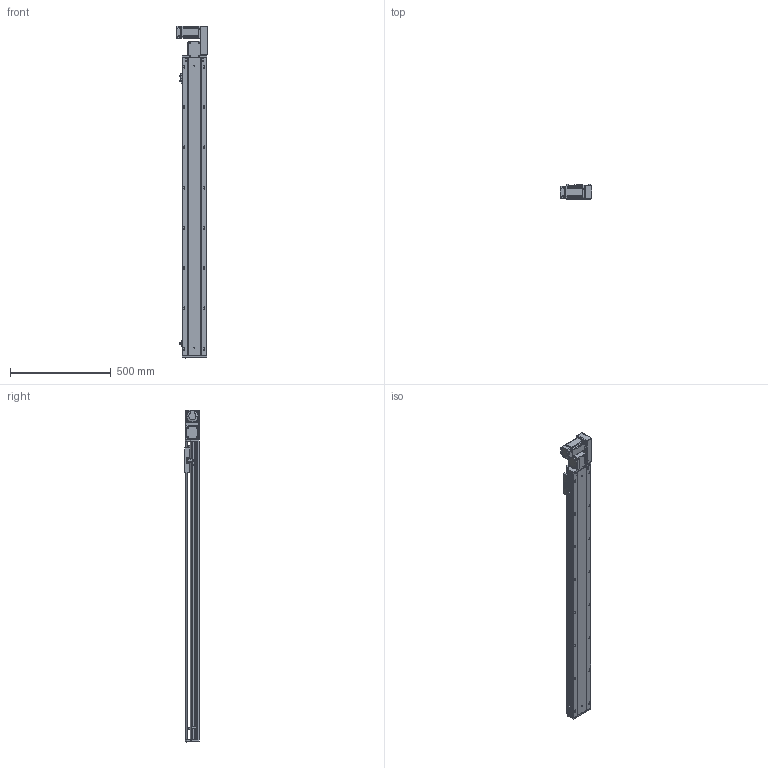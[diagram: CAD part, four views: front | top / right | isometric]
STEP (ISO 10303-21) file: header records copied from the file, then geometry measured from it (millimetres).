
FILE_DESCRIPTION (( 'STEP AP203' ), '1' );
FILE_NAME ('RY120-T-300-RK.SLDASM_1250.step', '2021-03-01T03:54:02', ( '盈信电脑' ), ( '东莞市道滘镇水果街19号' ), 'SwSTEP 2.0', 'SolidWorks 2012', '' );
FILE_SCHEMA (( 'CONFIG_CONTROL_DESIGN' ));
Length unit declared in the file: millimetre
Products named in the file (17): RY120-T-300-RK.SLDASM_1250; RY120-T萇儂欶; RY120-T主同步轮轴承压盖; RY120-T蹟翐M4; 滅袉蝶18-10; 15; RY120-T萇儂假蚾啣; RY120-T翋肮祭謫裔啣; RY120-T肮祭湍揤踡輸2; RY120外置感应片(140共用）; RY120-T肮祭湍揤踡輸1; RY120-T翋肮祭盓傅釱; RY120綴裔啣; RY120肮祭湍臏賑輸; 覜茼ん672; RY120-T-300-RK倰第奻裔啣_1250; RY120-T-300-RK倰第菁釱_1250
Assembly tree (22 placements, depth 2):
  RY120-T-300-RK.SLDASM_1250
    RY120-T-300-RK倰第菁釱_1250
    RY120-T-300-RK倰第奻裔啣_1250
    RY120肮祭湍臏賑輸
    RY120綴裔啣
    覜茼ん672  x3
    RY120外置感应片(140共用）
    RY120-T肮祭湍揤踡輸1
    RY120-T肮祭湍揤踡輸2
    RY120-T翋肮祭盓傅釱
    滅袉蝶18-10  x2
    RY120-T翋肮祭謫裔啣
    15
    RY120-T萇儂假蚾啣
    RY120-T蹟翐M4  x4
    RY120-T萇儂欶
    RY120-T主同步轮轴承压盖
Bounding box: 155.5 x 73 x 1647.5 mm (x, y, z)
Volume: 4164773.1 mm3; surface area: 1567285.6 mm2
Topology: 23 solids, 23 shells, 2894 faces, 7896 edges, 5054 vertices
Faces by surface type: plane 1426, cylinder 1110, cone 269, bspline 89
Entity records: 92271 total; most frequent: CARTESIAN_POINT 23588, ORIENTED_EDGE 14184, DIRECTION 13418, EDGE_CURVE 7092, VERTEX_POINT 4641, AXIS2_PLACEMENT_3D 4511, LINE 4396, VECTOR 4396
